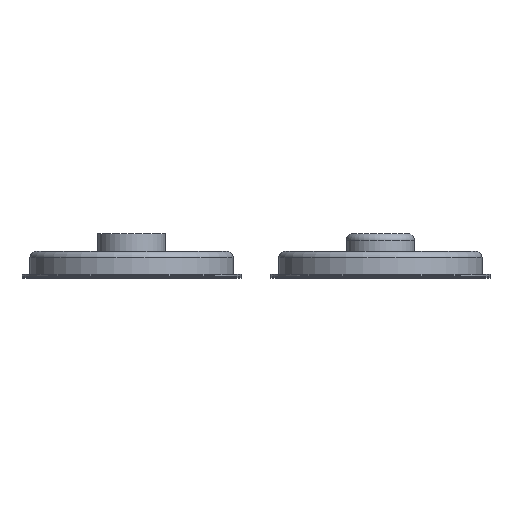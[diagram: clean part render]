
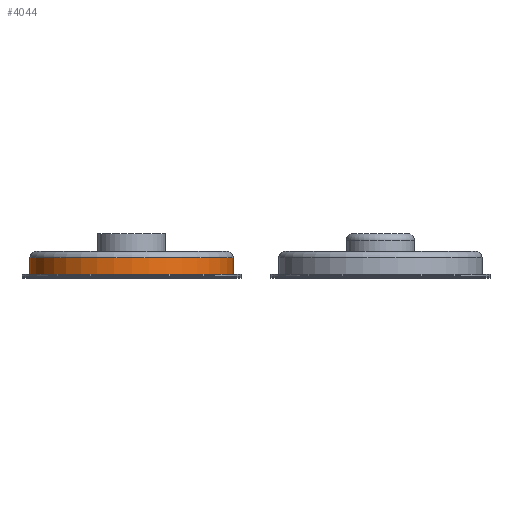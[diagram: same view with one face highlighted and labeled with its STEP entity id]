
A CAD part, top view. The second image highlights one B-rep face of the part: STEP entity #4044.
In plain terms, the highlighted cylindrical face has radius 397.383 mm (diameter 794.766 mm), a full revolution.
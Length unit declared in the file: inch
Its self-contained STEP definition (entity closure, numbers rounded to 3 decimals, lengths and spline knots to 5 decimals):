
#227=CIRCLE('',#4336,15.645);
#229=CIRCLE('',#4339,15.645);
#347=CYLINDRICAL_SURFACE('',#4338,15.645);
#409=FACE_BOUND('',#907,.T.);
#620=FACE_OUTER_BOUND('',#906,.T.);
#906=EDGE_LOOP('',(#3067));
#907=EDGE_LOOP('',(#3068));
#2082=VERTEX_POINT('',#6159);
#2084=VERTEX_POINT('',#6164);
#2488=EDGE_CURVE('',#2082,#2082,#227,.T.);
#2490=EDGE_CURVE('',#2084,#2084,#229,.T.);
#3067=ORIENTED_EDGE('',*,*,#2490,.F.);
#3068=ORIENTED_EDGE('',*,*,#2488,.F.);
#4044=ADVANCED_FACE('',(#620,#409),#347,.T.);
#4336=AXIS2_PLACEMENT_3D('',#6160,#4966,#4967);
#4338=AXIS2_PLACEMENT_3D('',#6163,#4970,#4971);
#4339=AXIS2_PLACEMENT_3D('',#6165,#4972,#4973);
#4966=DIRECTION('center_axis',(0.,1.,0.));
#4967=DIRECTION('ref_axis',(-1.,0.,0.));
#4970=DIRECTION('center_axis',(0.,1.,0.));
#4971=DIRECTION('ref_axis',(-1.,0.,0.));
#4972=DIRECTION('center_axis',(0.,-1.,0.));
#4973=DIRECTION('ref_axis',(-1.,0.,0.));
#6159=CARTESIAN_POINT('',(-3.525,52.09,212.625));
#6160=CARTESIAN_POINT('Origin',(-19.17,52.09,212.625));
#6163=CARTESIAN_POINT('Origin',(-19.17,49.54,212.625));
#6164=CARTESIAN_POINT('',(-3.525,49.54,212.625));
#6165=CARTESIAN_POINT('Origin',(-19.17,49.54,212.625));
